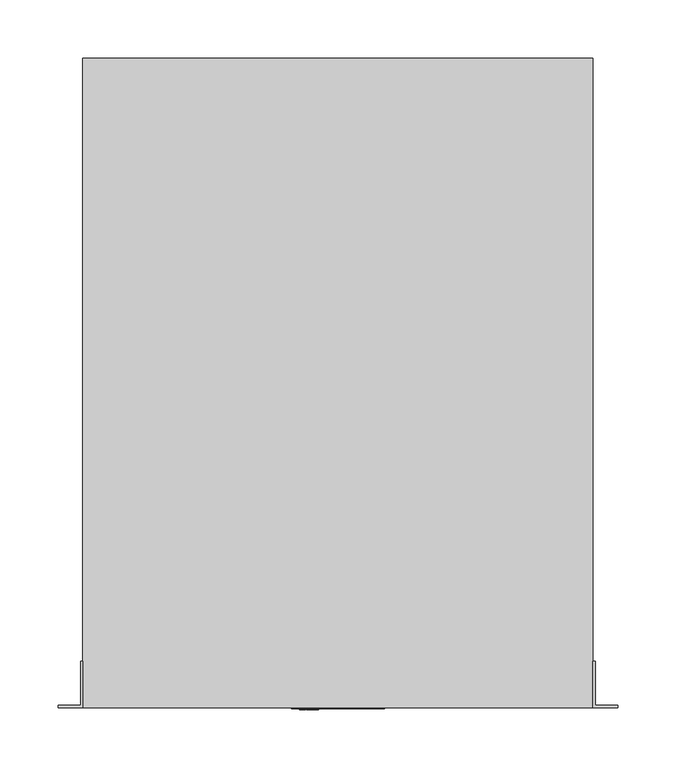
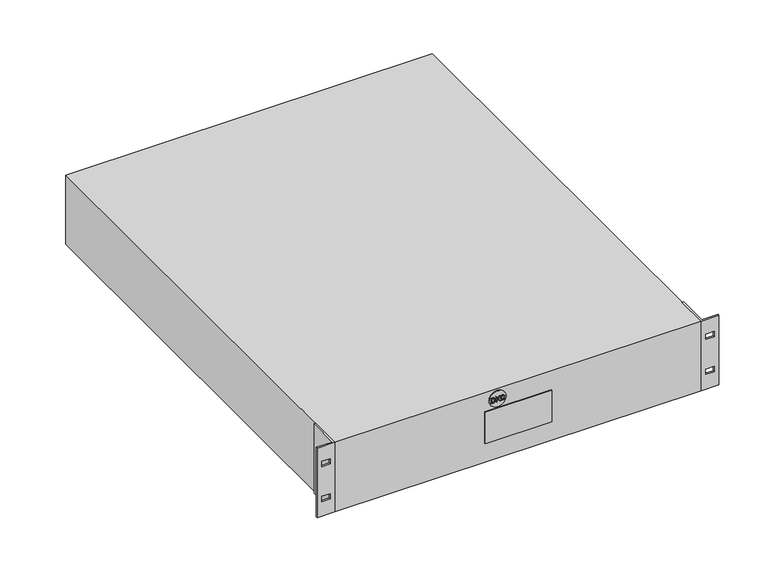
"""IFC4 building model written with IfcOpenShell, lengths in millimetres: proxy geometry, НВО_КНС_ОнлайнИБПSmallRackmount_DKC : 3000 ВА."""

from ifc_helpers import new_model, si_unit, point, frame, frame_2d, origin, origin_with_axes, place, context, project, spatial, polyline, circle_curve, trimmed, segment, composite_curve, outline, extrude, faceted_brep, source, transform, mapped, element, save


def electrical_equipment_e30767d2(model_context):
    return source(origin(), model_context, "Body", "SolidModel", [
        extrude(outline(polyline([(73.0, -33.1463789), (73.0, -30.967046), (73.103007, -29.9980448), (73.9520786, -28.7273804), (74.829845, -28.3153525), (76.0460629, -28.154956), (77.4793312, -28.391872), (78.5094008, -29.1055631), (78.9405585, -29.9914229), (79.0273786, -31.0671099), (79.0273786, -33.1463789), (73.0, -33.1463789)]), holes=[polyline([(73.7534223, -32.3929566), (78.2739563, -32.3929566), (78.2739563, -31.0803536), (78.153291, -30.0120243), (77.4852173, -29.2299072), (76.0578351, -28.9083783), (74.9181367, -29.0724537), (73.8623154, -30.0900153), (73.7534223, -31.0597522), (73.7534223, -32.3929566)])]), frame((0.0, -2.0, 0.0), z_axis=(0.0, 1.0, 0.0), x_axis=(0.0, 0.0, 1.0)), (0.0, 0.0, 1.0), 6.0),
        extrude(outline(polyline([(73.0, -26.7422891), (75.0719114, -26.365578), (76.0401768, -25.3502237), (73.0, -23.0487539), (73.0, -22.1275774), (76.5493255, -24.816059), (79.0273786, -22.2217552), (79.0273786, -23.2753692), (76.076965, -26.365578), (79.0273786, -27.1190003), (73.0, -26.7422891)])), frame((0.0, -2.0, 0.0), z_axis=(0.0, 1.0, 0.0), x_axis=(0.0, 0.0, 1.0)), (0.0, 0.0, 1.0), 6.0),
        extrude(outline(polyline([(75.1425447, -17.3245101), (74.0330126, -17.963889), (73.6592445, -19.1168311), (73.9336845, -20.1564657), (74.7628905, -20.8642706), (76.0607782, -21.0916217), (77.180611, -20.8995873), (78.0458694, -20.2337209), (78.3681341, -19.055027), (78.0775073, -18.0367296), (77.3307068, -16.6652655), (78.652139, -17.5165445), (79.1215564, -19.0255964), (78.7588248, -20.4735799), (77.6971173, -21.4881985), (76.0593067, -21.845044), (74.4479835, -21.5294013), (73.3016632, -20.6096963), (72.9058222, -19.0417832), (73.4289504, -17.4643052), (75.1425447, -17.3245101)])), frame((0.0, -2.0, 0.0), z_axis=(0.0, 1.0, 0.0), x_axis=(0.0, 0.0, 1.0)), (0.0, 0.0, 1.0), 6.0),
        extrude(outline(composite_curve([segment(trimmed(circle_curve(frame_2d((76.0, -25.0)), 10.0), [point((76.0, -35.0))], [point((76.0, -15.0))], False, "CARTESIAN"), True, "CONTINUOUS"), segment(trimmed(circle_curve(frame_2d((76.0, -25.0)), 10.0), [point((76.0, -15.0))], [point((76.0, -35.0))], False, "CARTESIAN"), True, "CONTINUOUS")], self_intersect=False)), frame((0.0, -1.0, 0.0), z_axis=(0.0, 1.0, 0.0), x_axis=(0.0, 0.0, 1.0)), (0.0, 0.0, 1.0), 10.0),
        faceted_brep([(220.0, 0.0, 88.0), (241.5, 0.0, 88.0), (241.5, 2.0, 88.0), (222.0, 2.0, 88.0), (222.0, 40.0, 88.0), (220.0, 40.0, 88.0), (220.0, 0.0, 0.0), (220.0, 40.0, 0.0), (222.0, 40.0, 0.0), (222.0, 2.0, 0.0), (241.5, 2.0, 0.0), (241.5, 0.0, 0.0), (225.75, 0.0, 25.025), (235.75, 0.0, 25.025), (235.75, 0.0, 18.525), (225.75, 0.0, 18.525), (225.75, 0.0, 69.475), (235.75, 0.0, 69.475), (235.75, 0.0, 62.975), (225.75, 0.0, 62.975), (235.75, 2.0, 25.025), (225.75, 2.0, 25.025), (225.75, 2.0, 18.525), (235.75, 2.0, 18.525), (235.75, 2.0, 69.475), (225.75, 2.0, 69.475), (225.75, 2.0, 62.975), (235.75, 2.0, 62.975)], [[[0, 1, 2, 3, 4, 5]], [[6, 7, 8, 9, 10, 11]], [[1, 0, 6, 11], [12, 13, 14, 15], [16, 17, 18, 19]], [[2, 1, 11, 10]], [[3, 2, 10, 9], [20, 21, 22, 23], [24, 25, 26, 27]], [[4, 3, 9, 8]], [[5, 4, 8, 7]], [[0, 5, 7, 6]], [[16, 25, 24, 17]], [[25, 16, 19, 26]], [[26, 19, 18, 27]], [[17, 24, 27, 18]], [[12, 21, 20, 13]], [[21, 12, 15, 22]], [[22, 15, 14, 23]], [[13, 20, 23, 14]]]),
        faceted_brep([(-222.0, 2.0, 88.0), (-241.5, 2.0, 88.0), (-241.5, 0.0, 88.0), (-220.0, 0.0, 88.0), (-220.0, 40.0, 88.0), (-222.0, 40.0, 88.0), (-222.0, 2.0, 0.0), (-222.0, 40.0, 0.0), (-220.0, 40.0, 0.0), (-220.0, 0.0, 0.0), (-241.5, 0.0, 0.0), (-241.5, 2.0, 0.0), (-225.75, 2.0, 69.475), (-235.75, 2.0, 69.475), (-235.75, 2.0, 62.975), (-225.75, 2.0, 62.975), (-225.75, 2.0, 25.025), (-235.75, 2.0, 25.025), (-235.75, 2.0, 18.525), (-225.75, 2.0, 18.525), (-235.75, 0.0, 69.475), (-225.75, 0.0, 69.475), (-225.75, 0.0, 62.975), (-235.75, 0.0, 62.975), (-235.75, 0.0, 25.025), (-225.75, 0.0, 25.025), (-225.75, 0.0, 18.525), (-235.75, 0.0, 18.525)], [[[0, 1, 2, 3, 4, 5]], [[6, 7, 8, 9, 10, 11]], [[1, 0, 6, 11], [12, 13, 14, 15], [16, 17, 18, 19]], [[2, 1, 11, 10]], [[3, 2, 10, 9], [20, 21, 22, 23], [24, 25, 26, 27]], [[4, 3, 9, 8]], [[5, 4, 8, 7]], [[0, 5, 7, 6]], [[20, 13, 12, 21]], [[13, 20, 23, 14]], [[14, 23, 22, 15]], [[21, 12, 15, 22]], [[24, 17, 16, 25]], [[17, 24, 27, 18]], [[18, 27, 26, 19]], [[25, 16, 19, 26]]]),
        extrude(outline(polyline([(40.0, -1.0), (-40.0, -1.0), (-40.0, 0.0), (40.0, 0.0), (40.0, -1.0)])), frame((0.0, 0.0, 24.0), z_axis=(0.0, 0.0, 1.0), x_axis=(1.0, 0.0, 0.0)), (0.0, 0.0, 1.0), 40.0),
        extrude(outline(polyline([(220.0, 0.0), (-220.0, 0.0), (-220.0, 560.0), (220.0, 560.0), (220.0, 0.0)])), origin_with_axes(), (0.0, 0.0, 1.0), 88.0),
    ])


if __name__ == "__main__":
    model = new_model("IFC4")
    model_context = context("Model", 3, world=origin())
    ifc_project = project(units=[si_unit("LENGTHUNIT", "METRE", prefix="MILLI")], contexts=[model_context])
    site = spatial("IfcSite", under=ifc_project)
    building = spatial("IfcBuilding", under=site)
    placement = place(None, origin())
    electrical_equipment_shape = electrical_equipment_e30767d2(model_context)
    element("IfcBuildingElementProxy", 1, Name="НВО_КНС_ОнлайнИБПSmallRackmount_DKC : 3000 ВА", ObjectType="НВО_КНС_ОнлайнИБПSmallRackmount_DKC : 3000 ВА", at=placement, inside=building, context=model_context, shape_type="MappedRepresentation", body=[
        mapped(electrical_equipment_shape, transform((0.0, 0.0, 0.0), x_axis=(1.0, 0.0, 0.0), y_axis=(0.0, 1.0, 0.0), z_axis=(0.0, 0.0, 1.0))),
    ])
    save(model, "model.ifc")
